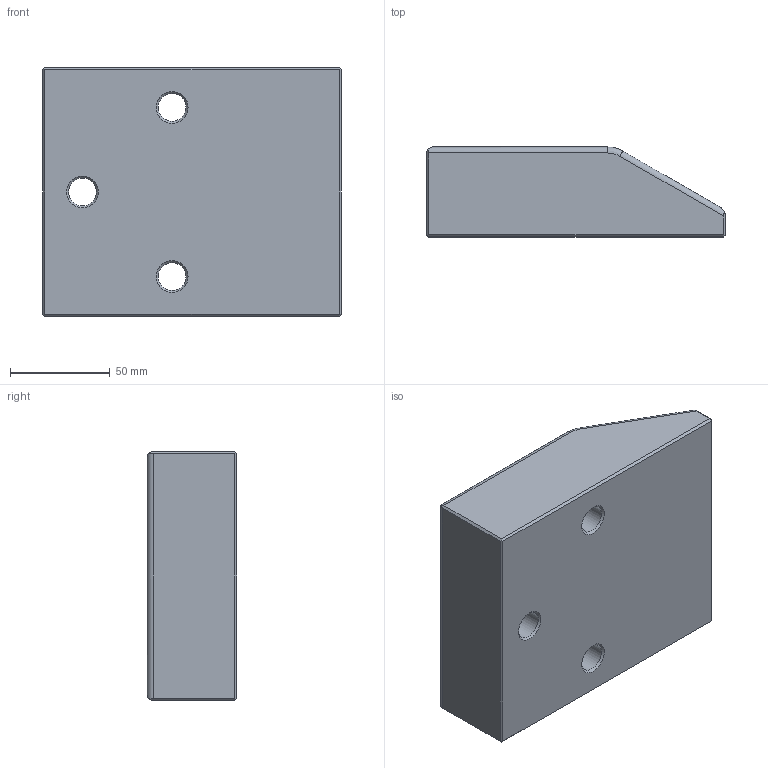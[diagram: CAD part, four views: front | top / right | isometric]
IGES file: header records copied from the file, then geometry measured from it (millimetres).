
Global section: file name: CA10.12545150.ipt; native system: Autodesk Inventor 2021; preprocessor: unknown; author: SM; date: 20211208.185045; units: millimetre
Bounding box: 150 x 45 x 125 mm (x, y, z)
Volume: 697424.4 mm3; surface area: 62948.7 mm2
Topology: 1 solids, 1 shells, 41 faces, 104 edges, 68 vertices
Faces by surface type: plane 20, revolution 14, cylinder 7
